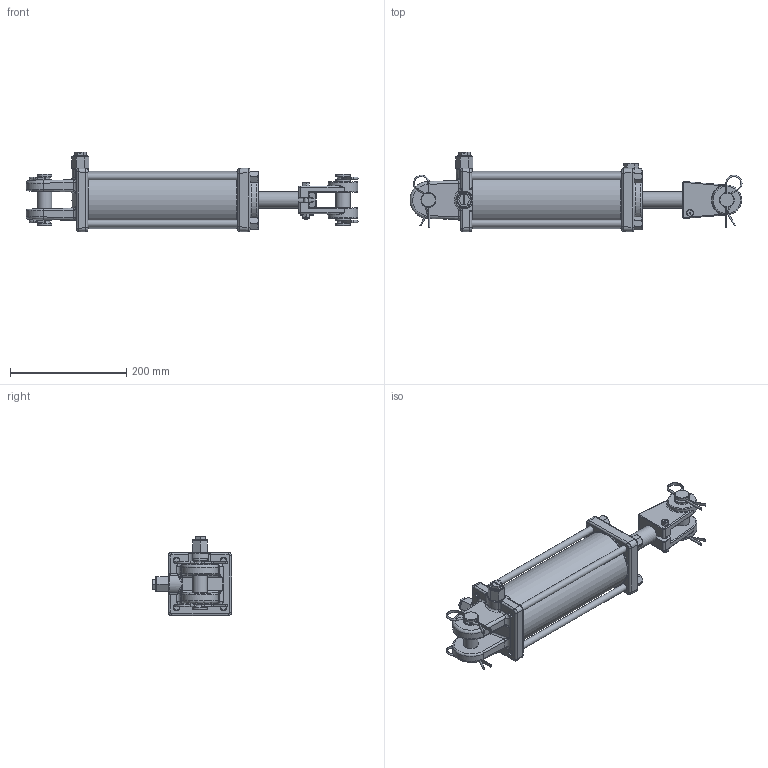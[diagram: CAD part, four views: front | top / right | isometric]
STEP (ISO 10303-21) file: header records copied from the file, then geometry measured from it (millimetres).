
FILE_DESCRIPTION((''),'2;1');
FILE_NAME('C:\Vault\Workspace\Vest\SAE-7208A.stp','2009-03-16T08:35:50',('newtonb'),(''),'Autodesk Inventor 2008','Autodesk Inventor 2008','');
FILE_SCHEMA(('AUTOMOTIVE_DESIGN { 1 0 10303 214 1 1 1 1 }'));
Length unit declared in the file: inch
Products named in the file (25): SAE-7208AV; 051710063AV; 1417005SFV; 081700182V; 010500005V; 100000018V; 100000017V; 170002003V; 220000202V; 071700005V; 220000208V; 240061236V; 240000236V; 240063338V; 240000338V; 240037071V; 250001216V; 170201121V; 800005001V_12.125; 220000105V; 200200093V; 200013106V; 200300040V; 190400001V; 190600003V
Assembly tree (36 placements, depth 3):
  SAE-7208AV
    051710063AV
    1417005SFV
    081700182V
    010500005V
    100000018V
      100000017V
      170002003V
      220000202V
    071700005V
    220000208V
    240061236V  x2
    240000236V  x2
    240063338V  x2
    240000338V
    240037071V
    250001216V
    170201121V  x4
      800005001V_12.125
      220000105V
    200200093V  x2
    200013106V  x2
    200300040V
    190400001V  x2
    190600003V  x4
Bounding box: 572.14 x 137.2 x 137.2 mm (x, y, z)
Volume: 1936118.1 mm3; surface area: 489980.7 mm2
Topology: 37 solids, 37 shells, 1013 faces, 2284 edges, 1342 vertices
Faces by surface type: plane 310, cylinder 273, bspline 224, cone 156, torus 50
Full cylindrical faces by diameter (mm): 1.143 x2, 5.159 x4, 7.938 x1, 11.43 x4, 14.739 x2, 14.9 x2, 16.764 x3, 17.433 x6, 18.847 x2, 18.999 x1, 19.05 x1, 19.126 x1, 21.59 x1, 25.4 x6, 25.781 x2, 28.575 x2, 28.577 x1, 28.651 x2, 29.211 x2, 31.598 x2, 34.29 x1, 34.9 x2, 34.925 x1, 50.8 x1, 79.375 x2, 79.502 x1, 83.058 x2, 83.261 x2, 88.265 x2, 88.544 x2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
Entity records: 32983 total; most frequent: CARTESIAN_POINT 16886, DIRECTION 3143, ORIENTED_EDGE 3048, EDGE_CURVE 1524, AXIS2_PLACEMENT_3D 1331, EDGE_LOOP 996, VERTEX_POINT 978, FACE_OUTER_BOUND 760
